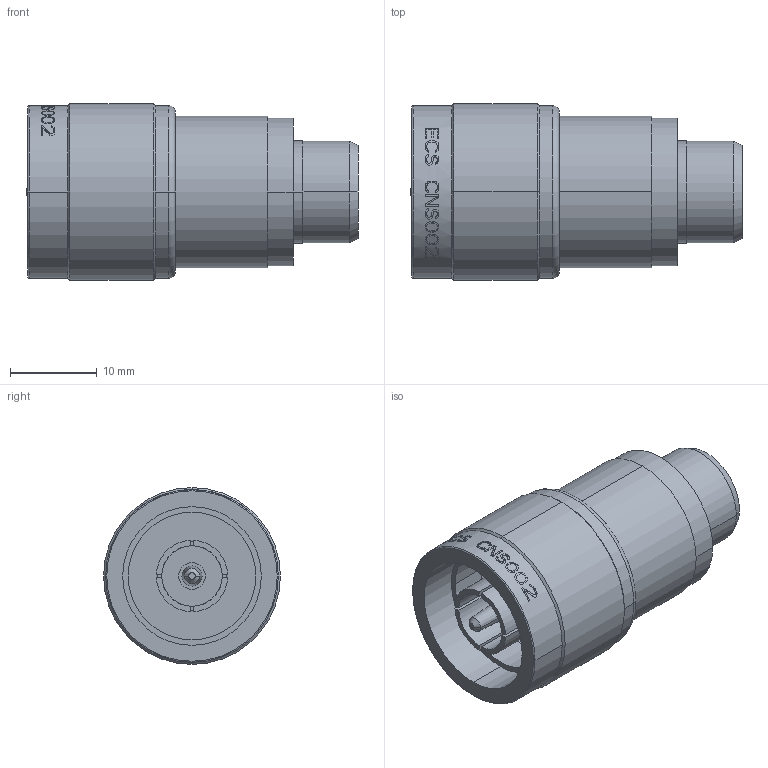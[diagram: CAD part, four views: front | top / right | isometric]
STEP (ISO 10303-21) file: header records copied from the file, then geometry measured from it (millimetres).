
FILE_DESCRIPTION((''),'2;1');
FILE_NAME('CNS002','2019-12-03T08:28:03',('paul.nurczyk'),('Carlisle Interconnect Technologies'),'CREO PARAMETRIC BY PTC INC, 2017260','CREO PARAMETRIC BY PTC INC, 2017260','');
FILE_SCHEMA(('CONFIG_CONTROL_DESIGN'));
Length unit declared in the file: inch
Products named in the file (1): CNS002
Bounding box: 38.33 x 20.42 x 20.42 mm (x, y, z)
Volume: 7663.4 mm3; surface area: 4275.1 mm2
Topology: 1 solids, 1 shells, 419 faces, 1172 edges, 778 vertices
Faces by surface type: bspline 249, plane 107, cylinder 49, cone 10, torus 4
Entity records: 17755 total; most frequent: CARTESIAN_POINT 8094, ORIENTED_EDGE 2344, DIRECTION 1441, EDGE_CURVE 1172, VERTEX_POINT 778, VECTOR 527, LINE 527, AXIS2_PLACEMENT_3D 457
